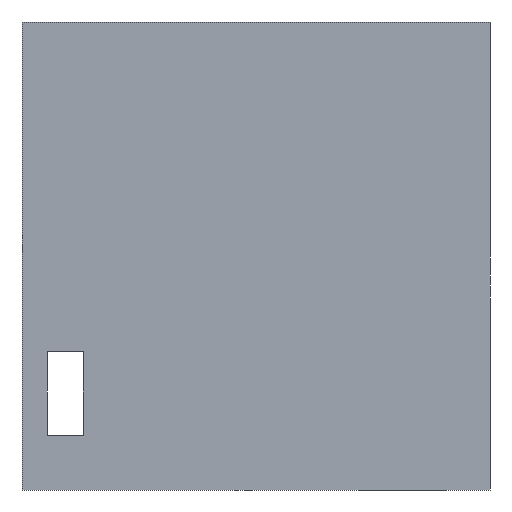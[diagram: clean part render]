
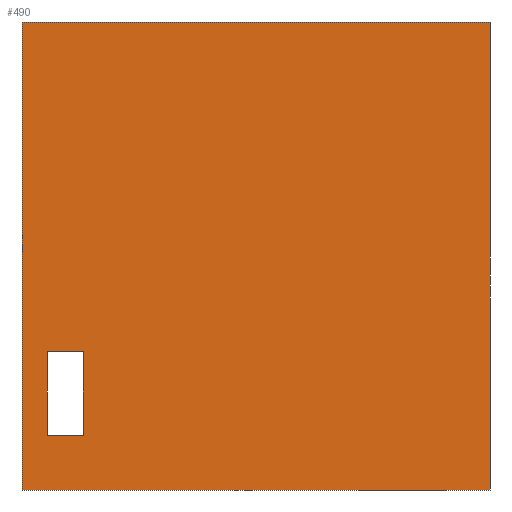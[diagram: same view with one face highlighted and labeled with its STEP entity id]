
A CAD part, front view. The second image highlights one B-rep face of the part: STEP entity #490.
In plain terms, the highlighted planar face has unit normal (0, -1, 0).
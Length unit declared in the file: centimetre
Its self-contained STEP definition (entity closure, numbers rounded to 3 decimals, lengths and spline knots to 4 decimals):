
#5 = VECTOR ( 'NONE', #507, 100. ) ;
#41 = CARTESIAN_POINT ( 'NONE',  ( 1000., 0., 1000. ) ) ;
#43 = ORIENTED_EDGE ( 'NONE', *, *, #410, .F. ) ;
#87 = VERTEX_POINT ( 'NONE', #41 ) ;
#102 = CARTESIAN_POINT ( 'NONE',  ( 131.2992, 0., 116.8428 ) ) ;
#109 = LINE ( 'NONE', #1683, #5 ) ;
#120 = ORIENTED_EDGE ( 'NONE', *, *, #509, .T. ) ;
#124 = LINE ( 'NONE', #400, #1458 ) ;
#155 = VECTOR ( 'NONE', #606, 100. ) ;
#161 = ORIENTED_EDGE ( 'NONE', *, *, #1108, .T. ) ;
#171 = AXIS2_PLACEMENT_3D ( 'NONE', #381, #365, #232 ) ;
#173 = VERTEX_POINT ( 'NONE', #1474 ) ;
#190 = ORIENTED_EDGE ( 'NONE', *, *, #549, .T. ) ;
#232 = DIRECTION ( 'NONE',  ( 0., 0., 1. ) ) ;
#258 = VECTOR ( 'NONE', #996, 100. ) ;
#266 = DIRECTION ( 'NONE',  ( 1., 0., 0. ) ) ;
#281 = LINE ( 'NONE', #802, #1570 ) ;
#297 = VERTEX_POINT ( 'NONE', #1132 ) ;
#365 = DIRECTION ( 'NONE',  ( 0., 1., 0. ) ) ;
#381 = CARTESIAN_POINT ( 'NONE',  ( 0., 0., 1000. ) ) ;
#384 = VERTEX_POINT ( 'NONE', #1368 ) ;
#391 = VERTEX_POINT ( 'NONE', #1120 ) ;
#392 = EDGE_CURVE ( 'NONE', #173, #384, #608, .T. ) ;
#400 = CARTESIAN_POINT ( 'NONE',  ( 1000., 0., 1000. ) ) ;
#404 = VERTEX_POINT ( 'NONE', #1261 ) ;
#410 = EDGE_CURVE ( 'NONE', #87, #391, #124, .T. ) ;
#420 = DIRECTION ( 'NONE',  ( 1., 0., 0. ) ) ;
#473 = VECTOR ( 'NONE', #266, 100. ) ;
#490 = ADVANCED_FACE ( 'NONE', ( #624, #522 ), #1139, .F. ) ;
#507 = DIRECTION ( 'NONE',  ( 0., 0., 1. ) ) ;
#509 = EDGE_CURVE ( 'NONE', #855, #173, #1043, .T. ) ;
#522 = FACE_OUTER_BOUND ( 'NONE', #1633, .T. ) ;
#534 = CARTESIAN_POINT ( 'NONE',  ( 53.8166, 0., 295.501 ) ) ;
#549 = EDGE_CURVE ( 'NONE', #384, #297, #109, .T. ) ;
#606 = DIRECTION ( 'NONE',  ( 1., 0., 0. ) ) ;
#608 = LINE ( 'NONE', #1251, #258 ) ;
#619 = ORIENTED_EDGE ( 'NONE', *, *, #392, .T. ) ;
#624 = FACE_BOUND ( 'NONE', #816, .T. ) ;
#671 = DIRECTION ( 'NONE',  ( 0., 0., -1. ) ) ;
#680 = CARTESIAN_POINT ( 'NONE',  ( 0., 0., 0. ) ) ;
#737 = CARTESIAN_POINT ( 'NONE',  ( 0., 0., 1000. ) ) ;
#802 = CARTESIAN_POINT ( 'NONE',  ( 0., 0., 1000. ) ) ;
#816 = EDGE_LOOP ( 'NONE', ( #619, #190, #1654, #120 ) ) ;
#855 = VERTEX_POINT ( 'NONE', #1534 ) ;
#912 = VECTOR ( 'NONE', #420, 100. ) ;
#933 = CARTESIAN_POINT ( 'NONE',  ( 0., 0., 0. ) ) ;
#996 = DIRECTION ( 'NONE',  ( -1., 0., 0. ) ) ;
#1024 = ORIENTED_EDGE ( 'NONE', *, *, #1576, .F. ) ;
#1037 = VERTEX_POINT ( 'NONE', #680 ) ;
#1043 = LINE ( 'NONE', #102, #1239 ) ;
#1060 = EDGE_CURVE ( 'NONE', #1037, #391, #1696, .T. ) ;
#1071 = EDGE_CURVE ( 'NONE', #297, #855, #1468, .T. ) ;
#1108 = EDGE_CURVE ( 'NONE', #404, #1037, #281, .T. ) ;
#1120 = CARTESIAN_POINT ( 'NONE',  ( 1000., 0., 0. ) ) ;
#1132 = CARTESIAN_POINT ( 'NONE',  ( 53.8166, 0., 295.501 ) ) ;
#1139 = PLANE ( 'NONE',  #171 ) ;
#1148 = DIRECTION ( 'NONE',  ( 0., 0., -1. ) ) ;
#1239 = VECTOR ( 'NONE', #1148, 100. ) ;
#1251 = CARTESIAN_POINT ( 'NONE',  ( 53.8166, 0., 116.8428 ) ) ;
#1261 = CARTESIAN_POINT ( 'NONE',  ( 0., 0., 1000. ) ) ;
#1368 = CARTESIAN_POINT ( 'NONE',  ( 53.8166, 0., 116.8428 ) ) ;
#1408 = DIRECTION ( 'NONE',  ( 0., 0., -1. ) ) ;
#1458 = VECTOR ( 'NONE', #1408, 100. ) ;
#1468 = LINE ( 'NONE', #534, #473 ) ;
#1474 = CARTESIAN_POINT ( 'NONE',  ( 131.2992, 0., 116.8428 ) ) ;
#1533 = ORIENTED_EDGE ( 'NONE', *, *, #1060, .T. ) ;
#1534 = CARTESIAN_POINT ( 'NONE',  ( 131.2992, 0., 295.501 ) ) ;
#1546 = LINE ( 'NONE', #737, #155 ) ;
#1570 = VECTOR ( 'NONE', #671, 100. ) ;
#1576 = EDGE_CURVE ( 'NONE', #404, #87, #1546, .T. ) ;
#1633 = EDGE_LOOP ( 'NONE', ( #1533, #43, #1024, #161 ) ) ;
#1654 = ORIENTED_EDGE ( 'NONE', *, *, #1071, .T. ) ;
#1683 = CARTESIAN_POINT ( 'NONE',  ( 53.8166, 0., 116.8428 ) ) ;
#1696 = LINE ( 'NONE', #933, #912 ) ;
